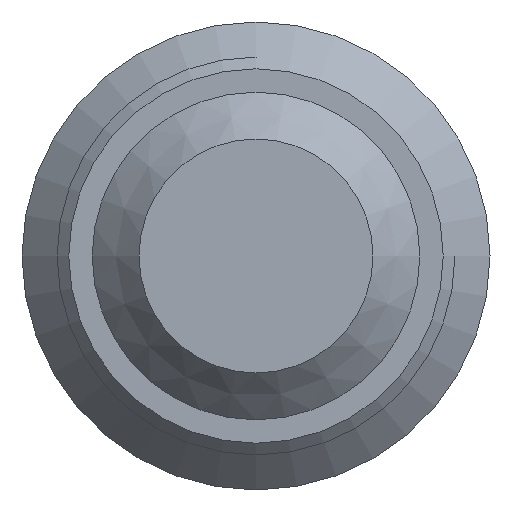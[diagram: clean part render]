
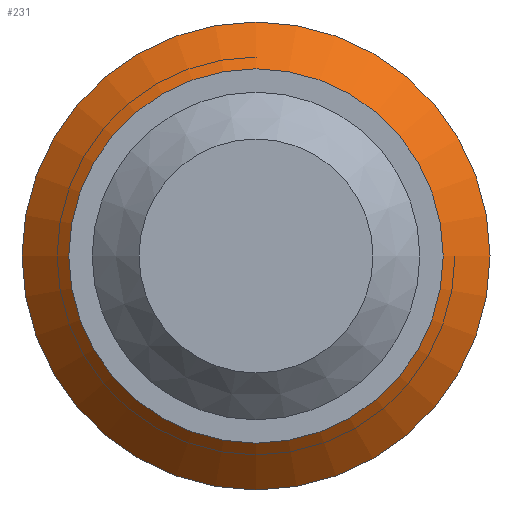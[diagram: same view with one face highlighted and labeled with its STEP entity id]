
A CAD part, front view. The second image highlights one B-rep face of the part: STEP entity #231.
In plain terms, the highlighted conical face has half-angle 45 degrees and reference radius 4.5 mm.
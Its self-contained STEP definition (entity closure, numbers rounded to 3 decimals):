
#38=FACE_OUTER_BOUND('',#53,.T.);
#53=EDGE_LOOP('',(#187,#188,#189,#190,#191));
#67=LINE('',#417,#77);
#77=VECTOR('',#341,4.5);
#86=CIRCLE('',#264,5.);
#87=CIRCLE('',#265,5.);
#95=CIRCLE('',#278,4.);
#108=VERTEX_POINT('',#389);
#109=VERTEX_POINT('',#390);
#117=VERTEX_POINT('',#415);
#133=EDGE_CURVE('',#108,#109,#86,.T.);
#134=EDGE_CURVE('',#109,#108,#87,.T.);
#145=EDGE_CURVE('',#117,#117,#95,.T.);
#146=EDGE_CURVE('',#117,#108,#67,.T.);
#187=ORIENTED_EDGE('',*,*,#145,.T.);
#188=ORIENTED_EDGE('',*,*,#146,.T.);
#189=ORIENTED_EDGE('',*,*,#133,.T.);
#190=ORIENTED_EDGE('',*,*,#134,.T.);
#191=ORIENTED_EDGE('',*,*,#146,.F.);
#223=CONICAL_SURFACE('',#277,4.5,0.785);
#231=ADVANCED_FACE('',(#38),#223,.T.);
#264=AXIS2_PLACEMENT_3D('',#391,#308,#309);
#265=AXIS2_PLACEMENT_3D('',#392,#310,#311);
#277=AXIS2_PLACEMENT_3D('',#414,#337,#338);
#278=AXIS2_PLACEMENT_3D('',#416,#339,#340);
#308=DIRECTION('center_axis',(0.,-1.,0.));
#309=DIRECTION('ref_axis',(-1.,0.,0.));
#310=DIRECTION('center_axis',(0.,-1.,0.));
#311=DIRECTION('ref_axis',(-1.,0.,0.));
#337=DIRECTION('center_axis',(0.,1.,0.));
#338=DIRECTION('ref_axis',(-1.,0.,0.));
#339=DIRECTION('center_axis',(0.,1.,0.));
#340=DIRECTION('ref_axis',(-1.,0.,0.));
#341=DIRECTION('',(0.707,0.707,0.));
#389=CARTESIAN_POINT('',(5.,3.,0.));
#390=CARTESIAN_POINT('',(-5.,3.,0.));
#391=CARTESIAN_POINT('Origin',(0.,3.,0.));
#392=CARTESIAN_POINT('Origin',(0.,3.,0.));
#414=CARTESIAN_POINT('Origin',(0.,2.5,0.));
#415=CARTESIAN_POINT('',(4.,2.,0.));
#416=CARTESIAN_POINT('Origin',(0.,2.,0.));
#417=CARTESIAN_POINT('',(4.5,2.5,0.));
